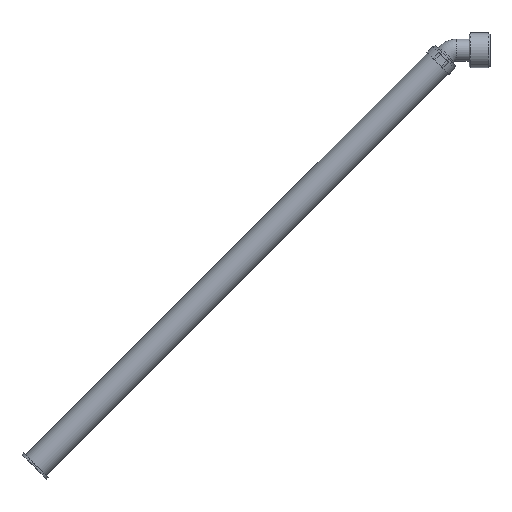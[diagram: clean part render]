
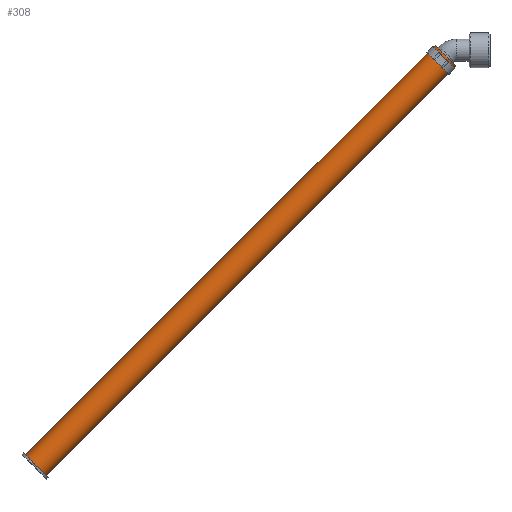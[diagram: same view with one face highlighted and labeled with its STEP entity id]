
A CAD part, top view. The second image highlights one B-rep face of the part: STEP entity #308.
In plain terms, the highlighted cylindrical face has radius 12.5 mm (diameter 25 mm), a full revolution.
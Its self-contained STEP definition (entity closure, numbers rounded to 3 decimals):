
#308 = ADVANCED_FACE( '', ( #427, #428 ), #429, .T. );
#427 = FACE_OUTER_BOUND( '', #595, .T. );
#428 = FACE_OUTER_BOUND( '', #596, .T. );
#429 = CYLINDRICAL_SURFACE( '', #597, 12.5 );
#595 = EDGE_LOOP( '', ( #818 ) );
#596 = EDGE_LOOP( '', ( #819 ) );
#597 = AXIS2_PLACEMENT_3D( '', #820, #821, #822 );
#818 = ORIENTED_EDGE( '', *, *, #1047, .T. );
#819 = ORIENTED_EDGE( '', *, *, #1049, .F. );
#820 = CARTESIAN_POINT( '', ( 500., 0., 0. ) );
#821 = DIRECTION( '', ( -1., 0., 0. ) );
#822 = DIRECTION( '', ( 0., 0., -1. ) );
#1047 = EDGE_CURVE( '', #1154, #1154, #1155, .T. );
#1049 = EDGE_CURVE( '', #1158, #1158, #1159, .T. );
#1154 = VERTEX_POINT( '', #1304 );
#1155 = CIRCLE( '', #1305, 12.5 );
#1158 = VERTEX_POINT( '', #1308 );
#1159 = CIRCLE( '', #1309, 12.5 );
#1304 = CARTESIAN_POINT( '', ( 0., 0., -12.5 ) );
#1305 = AXIS2_PLACEMENT_3D( '', #1504, #1505, #1506 );
#1308 = CARTESIAN_POINT( '', ( 500., 0., -12.5 ) );
#1309 = AXIS2_PLACEMENT_3D( '', #1510, #1511, #1512 );
#1504 = CARTESIAN_POINT( '', ( 0., 0., 0. ) );
#1505 = DIRECTION( '', ( 1., 0., 0. ) );
#1506 = DIRECTION( '', ( 0., 0., -1. ) );
#1510 = CARTESIAN_POINT( '', ( 500., 0., 0. ) );
#1511 = DIRECTION( '', ( 1., 0., 0. ) );
#1512 = DIRECTION( '', ( 0., 0., -1. ) );
